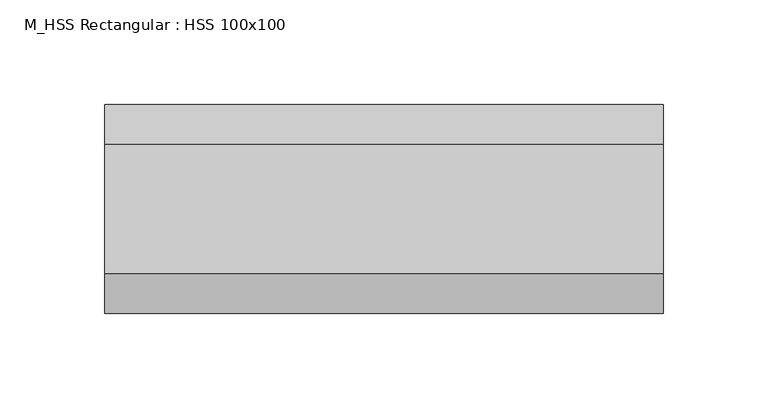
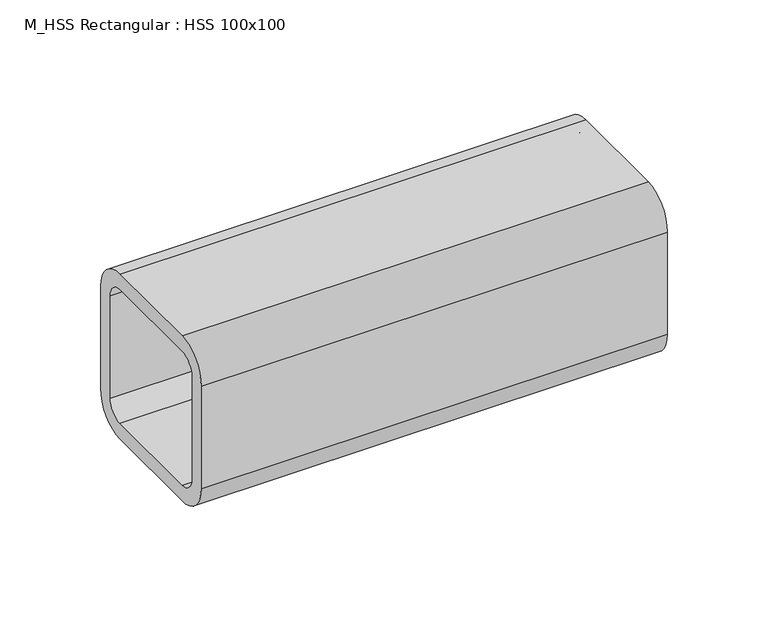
"""IFC4 building model written with IfcOpenShell, lengths in millimetres: beam geometry, M_HSS Rectangular : HSS 100x100."""

from ifc_helpers import new_model, si_unit, point, frame, frame_2d, origin, place, context, project, spatial, polyline, circle_curve, trimmed, segment, composite_curve, outline, extrude, source, transform, mapped, element, save


def m_hss_rectangular_hss_100x100_851711bd(model_context):
    return source(origin(), model_context, "Body", "SweptSolid", [
        extrude(outline(composite_curve([segment(polyline([(50.0, 30.94), (50.0, -30.94)]), True, "CONTINUOUS"), segment(trimmed(circle_curve(frame_2d((30.94, -30.94)), 19.06), [point((50.0, -30.94))], [point((30.94, -50.0))], False, "CARTESIAN"), True, "CONTINUOUS"), segment(polyline([(30.94, -50.0), (-30.94, -50.0)]), True, "CONTINUOUS"), segment(trimmed(circle_curve(frame_2d((-30.94, -30.94)), 19.06), [point((-30.94, -50.0))], [point((-50.0, -30.94))], False, "CARTESIAN"), True, "CONTINUOUS"), segment(polyline([(-50.0, -30.94), (-50.0, 30.94)]), True, "CONTINUOUS"), segment(trimmed(circle_curve(frame_2d((-30.94, 30.94)), 19.06), [point((-50.0, 30.94))], [point((-30.94, 50.0))], False, "CARTESIAN"), True, "CONTINUOUS"), segment(polyline([(-30.94, 50.0), (30.94, 50.0)]), True, "CONTINUOUS"), segment(trimmed(circle_curve(frame_2d((30.94, 30.94)), 19.06), [point((30.94, 50.0))], [point((50.0, 30.94))], False, "CARTESIAN"), True, "CONTINUOUS")], self_intersect=False), holes=[composite_curve([segment(trimmed(circle_curve(frame_2d((-30.94, 30.94)), 9.53), [point((-30.94, 40.47))], [point((-40.47, 30.94))], True, "CARTESIAN"), True, "CONTINUOUS"), segment(polyline([(-40.47, 30.94), (-40.47, -30.94)]), True, "CONTINUOUS"), segment(trimmed(circle_curve(frame_2d((-30.94, -30.94)), 9.53), [point((-40.47, -30.94))], [point((-30.94, -40.47))], True, "CARTESIAN"), True, "CONTINUOUS"), segment(polyline([(-30.94, -40.47), (30.94, -40.47)]), True, "CONTINUOUS"), segment(trimmed(circle_curve(frame_2d((30.94, -30.94)), 9.53), [point((30.94, -40.47))], [point((40.47, -30.94))], True, "CARTESIAN"), True, "CONTINUOUS"), segment(polyline([(40.47, -30.94), (40.47, 30.94)]), True, "CONTINUOUS"), segment(trimmed(circle_curve(frame_2d((30.94, 30.94)), 9.53), [point((40.47, 30.94))], [point((30.94, 40.47))], True, "CARTESIAN"), True, "CONTINUOUS"), segment(polyline([(30.94, 40.47), (-30.94, 40.47)]), True, "CONTINUOUS")], self_intersect=False)]), frame((-127.1, 0.0, 0.0), z_axis=(1.0, 0.0, 0.0), x_axis=(0.0, 1.0, 0.0)), (0.0, 0.0, 1.0), 267.2),
    ])


if __name__ == "__main__":
    model = new_model("IFC4")
    model_context = context("Model", 3, world=origin())
    ifc_project = project(units=[si_unit("LENGTHUNIT", "METRE", prefix="MILLI")], contexts=[model_context])
    site = spatial("IfcSite", under=ifc_project)
    building = spatial("IfcBuilding", under=site)
    placement = place(None, origin())
    m_hss_rectangular_hss_100x100_shape = m_hss_rectangular_hss_100x100_851711bd(model_context)
    element("IfcBeam", 1, ObjectType="M_HSS Rectangular : HSS 100x100", at=placement, inside=building, context=model_context, shape_type="MappedRepresentation", body=[
        mapped(m_hss_rectangular_hss_100x100_shape, transform((0.0, 0.0, 0.0), x_axis=(1.0, 0.0, 0.0), y_axis=(0.0, 1.0, 0.0), z_axis=(0.0, 0.0, 1.0))),
    ])
    save(model, "model.ifc")
